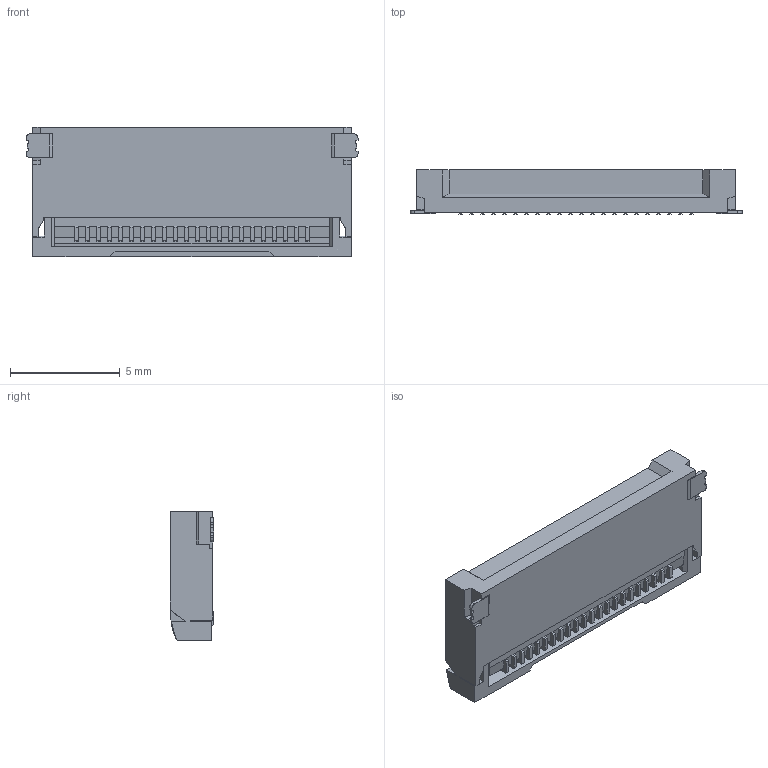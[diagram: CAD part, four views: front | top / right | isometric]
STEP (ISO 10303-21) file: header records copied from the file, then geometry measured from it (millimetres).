
FILE_DESCRIPTION (( 'STEP AP203' ), '1' );
FILE_NAME ('20477-022E-xxC ASS''Y ACT-CLOSE STEP R0 ALL.STEP', '2013-05-10T07:03:27', ( 'kaihatsu-3dcad-3' ), ( '' ), 'SwSTEP 2.0', 'SolidWorks 2011', '' );
FILE_SCHEMA (( 'CONFIG_CONTROL_DESIGN' ));
Length unit declared in the file: millimetre
Products named in the file (1): 20477-022E-xxC ASS''Y ACT-CLOSE STEP R0 ALL
Bounding box: 15.1 x 2 x 5.9 mm (x, y, z)
Volume: 150 mm3; surface area: 287 mm2
Topology: 1 solids, 1 shells, 310 faces, 885 edges, 574 vertices
Faces by surface type: plane 290, cylinder 18, cone 2
Entity records: 9948 total; most frequent: CARTESIAN_POINT 1794, ORIENTED_EDGE 1770, DIRECTION 1535, EDGE_CURVE 885, VECTOR 841, LINE 841, VERTEX_POINT 574, AXIS2_PLACEMENT_3D 347
